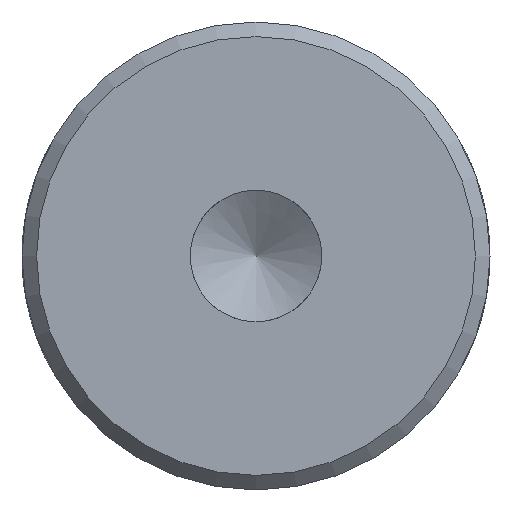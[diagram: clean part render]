
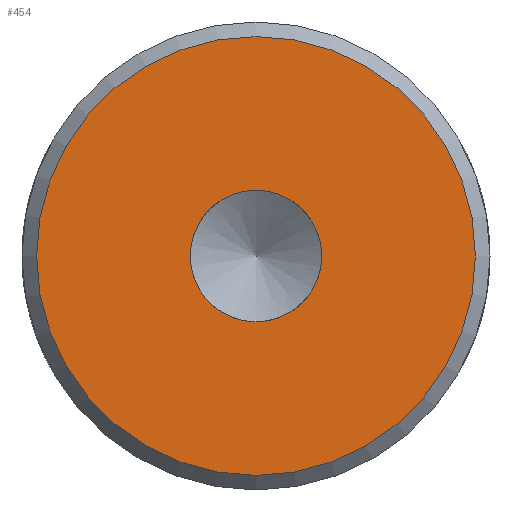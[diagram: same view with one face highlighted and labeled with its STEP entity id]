
A CAD part, left-side view. The second image highlights one B-rep face of the part: STEP entity #454.
In plain terms, the highlighted planar face has unit normal (-1, 0, 0).
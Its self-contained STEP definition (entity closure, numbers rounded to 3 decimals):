
#24=PLANE('',#513);
#31=FACE_BOUND('',#84,.T.);
#56=FACE_OUTER_BOUND('',#83,.T.);
#83=EDGE_LOOP('',(#366));
#84=EDGE_LOOP('',(#367,#368));
#97=CIRCLE('',#488,2.25);
#98=CIRCLE('',#489,2.25);
#112=CIRCLE('',#512,7.5);
#184=VERTEX_POINT('',#720);
#185=VERTEX_POINT('',#721);
#208=VERTEX_POINT('',#1123);
#232=EDGE_CURVE('',#184,#185,#97,.T.);
#233=EDGE_CURVE('',#185,#184,#98,.T.);
#267=EDGE_CURVE('',#208,#208,#112,.T.);
#366=ORIENTED_EDGE('',*,*,#267,.F.);
#367=ORIENTED_EDGE('',*,*,#232,.T.);
#368=ORIENTED_EDGE('',*,*,#233,.T.);
#454=ADVANCED_FACE('',(#56,#31),#24,.T.);
#488=AXIS2_PLACEMENT_3D('',#722,#550,#551);
#489=AXIS2_PLACEMENT_3D('',#723,#552,#553);
#512=AXIS2_PLACEMENT_3D('',#1125,#610,#611);
#513=AXIS2_PLACEMENT_3D('',#1126,#612,#613);
#550=DIRECTION('center_axis',(1.,0.,0.));
#551=DIRECTION('ref_axis',(0.,0.,1.));
#552=DIRECTION('center_axis',(1.,0.,0.));
#553=DIRECTION('ref_axis',(0.,0.,1.));
#610=DIRECTION('center_axis',(1.,0.,0.));
#611=DIRECTION('ref_axis',(0.,-1.,0.));
#612=DIRECTION('center_axis',(-1.,0.,0.));
#613=DIRECTION('ref_axis',(0.,0.,1.));
#720=CARTESIAN_POINT('',(-51.5,0.,2.25));
#721=CARTESIAN_POINT('',(-51.5,0.,-2.25));
#722=CARTESIAN_POINT('Origin',(-51.5,0.,0.));
#723=CARTESIAN_POINT('Origin',(-51.5,0.,0.));
#1123=CARTESIAN_POINT('',(-51.5,7.5,0.));
#1125=CARTESIAN_POINT('Origin',(-51.5,0.,0.));
#1126=CARTESIAN_POINT('Origin',(-51.5,8.,0.));
